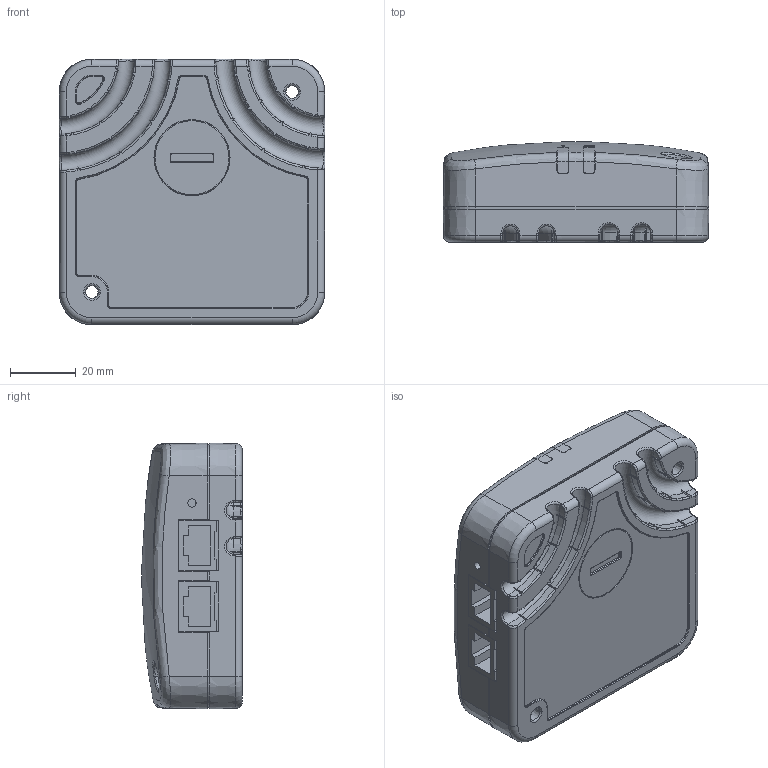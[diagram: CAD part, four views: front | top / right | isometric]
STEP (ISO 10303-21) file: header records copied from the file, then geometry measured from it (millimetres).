
FILE_DESCRIPTION((''),'2;1');
FILE_NAME('1045W4006','2020-02-22T10:43:23',('bs'),(''),'CREO PARAMETRIC BY PTC INC, 2019344','CREO PARAMETRIC BY PTC INC, 2019344','');
FILE_SCHEMA(('AUTOMOTIVE_DESIGN { 1 0 10303 214 1 1 1 1 }'));
Length unit declared in the file: millimetre
Products named in the file (1): 1045W4006
Bounding box: 81 x 30.61 x 81 mm (x, y, z)
Volume: 171313.5 mm3; surface area: 25959.9 mm2
Topology: 1 solids, 1 shells, 687 faces, 1845 edges, 1182 vertices
Faces by surface type: plane 326, cylinder 134, torus 92, bspline 67, cone 66, sphere 2
Entity records: 30967 total; most frequent: CARTESIAN_POINT 10388, ORIENTED_EDGE 3690, DIRECTION 3051, EDGE_CURVE 1845, VERTEX_POINT 1182, AXIS2_PLACEMENT_3D 1091, VECTOR 869, LINE 869
